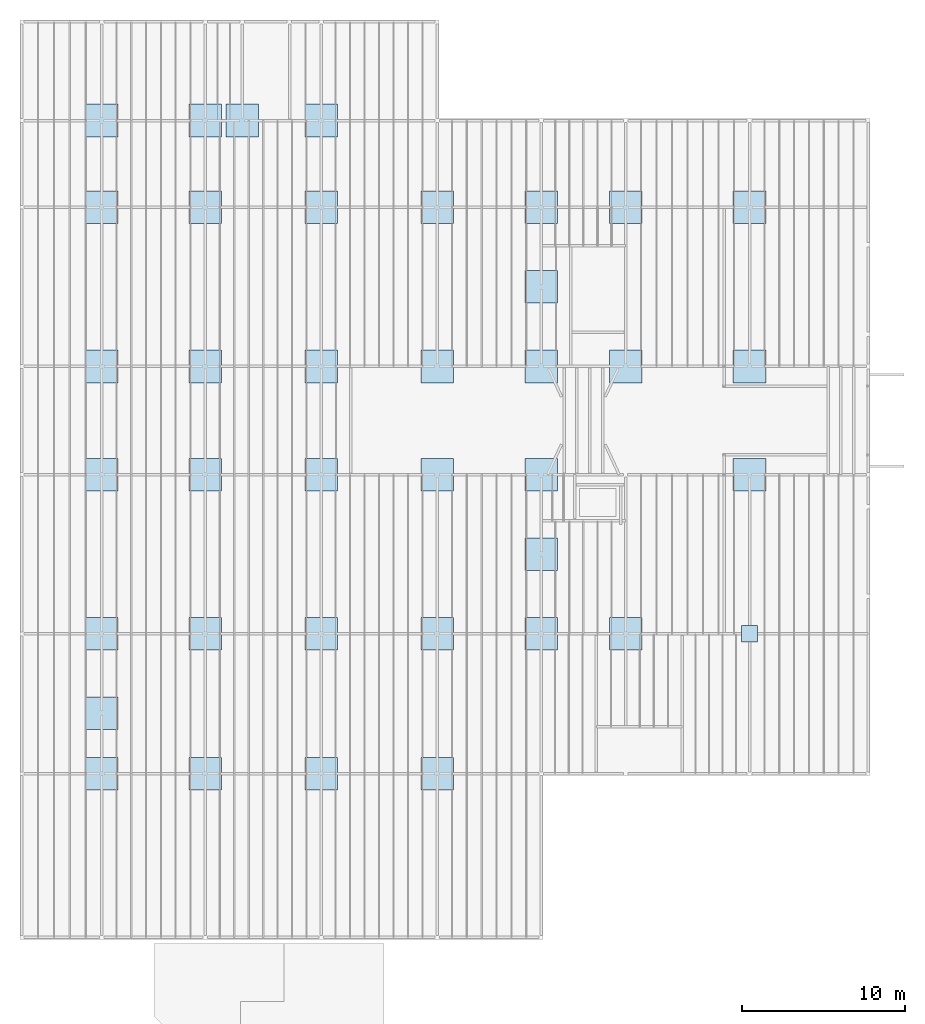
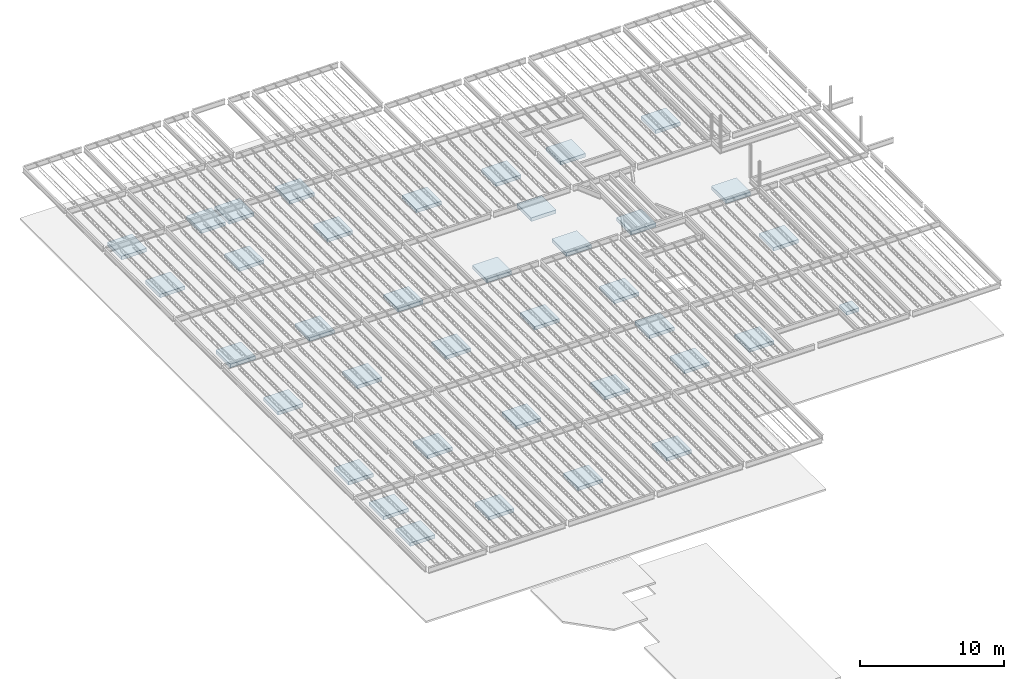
# One storey, part 1 of 75: 38 footings.
"""IFC2X3 building model written with IfcOpenShell, lengths in metres."""

from ifc_helpers import new_model, entity, si_unit, converted_unit, frame, origin, origin_2d_with_axis, place, context, project, spatial, rectangle, extrude, element, save


model = new_model("IFC2X3")

# Units and contexts
model_context = context("Model", 3, precision=1e-09, world=origin())
plan_context = context("Plan", 3, precision=1e-09, world=origin())
ifc_project = project(units=[si_unit("LENGTHUNIT", "METRE"), si_unit("AREAUNIT", "SQUARE_METRE"), si_unit("VOLUMEUNIT", "CUBIC_METRE"), converted_unit("PLANEANGLEUNIT", "DEGREE", entity("IfcRatioMeasure", 0.01745329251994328), si_unit("PLANEANGLEUNIT", "RADIAN"), dimensions=[0, 0, 0, 0, 0, 0, 0]), si_unit("TIMEUNIT", "SECOND")], contexts=[model_context, plan_context])

# Site, building, storey
site_placement = place(None, origin())
site = spatial("IfcSite", under=ifc_project, at=site_placement, Name="Default", CompositionType="ELEMENT")
building_placement = place(site_placement, origin())
building = spatial("IfcBuilding", under=site, at=building_placement, CompositionType="ELEMENT")
storey_placement = place(building_placement, origin())
storey = spatial("IfcBuildingStorey", under=building, at=storey_placement, Name="First Floor", CompositionType="ELEMENT", Elevation=-3.531500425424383e-13)

# Footings
footing_1_placement = place(storey_placement, origin())
element("IfcFooting", 1, at=footing_1_placement, inside=storey, Name="M_Footing-Rectangular:2000 x 2000 x 300mm:2000 x 2000 x 300mm", ObjectType="M_Footing-Rectangular:2000 x 2000 x 300mm", PredefinedType="NOTDEFINED", context=model_context, shape_type="SweptSolid", body=[
    extrude(rectangle(XDim=1.999999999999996, YDim=1.999999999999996, at=origin_2d_with_axis()), frame((-47.0, 44.78000000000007, -0.6049999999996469), z_axis=(0.0, 0.0, 1.0), x_axis=(-1.0, 0.0, 0.0)), (0.0, 0.0, 1.0), 0.2999999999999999),
])
footing_2_placement = place(storey_placement, origin())
element("IfcFooting", 2, at=footing_2_placement, inside=storey, Name="M_Footing-Rectangular:2000 x 2000 x 300mm:2000 x 2000 x 300mm", ObjectType="M_Footing-Rectangular:2000 x 2000 x 300mm", PredefinedType="NOTDEFINED", context=model_context, shape_type="SweptSolid", body=[
    extrude(rectangle(XDim=1.999999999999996, YDim=1.999999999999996, at=origin_2d_with_axis()), frame((-40.66000000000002, 44.78000000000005, -0.6049999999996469), z_axis=(0.0, 0.0, 1.0), x_axis=(-1.0, 0.0, 0.0)), (0.0, 0.0, 1.0), 0.2999999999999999),
])
footing_3_placement = place(storey_placement, origin())
element("IfcFooting", 3, at=footing_3_placement, inside=storey, Name="M_Footing-Rectangular:2000 x 2000 x 300mm:2000 x 2000 x 300mm", ObjectType="M_Footing-Rectangular:2000 x 2000 x 300mm", PredefinedType="NOTDEFINED", context=model_context, shape_type="SweptSolid", body=[
    extrude(rectangle(XDim=2.0, YDim=1.999999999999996, at=origin_2d_with_axis()), frame((-33.55, 44.78000000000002, -0.6049999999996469), z_axis=(0.0, 0.0, 1.0), x_axis=(-1.0, 0.0, 0.0)), (0.0, 0.0, 1.0), 0.2999999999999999),
])
footing_4_placement = place(storey_placement, origin())
element("IfcFooting", 4, at=footing_4_placement, inside=storey, Name="M_Footing-Rectangular:2000 x 2000 x 300mm:2000 x 2000 x 300mm", ObjectType="M_Footing-Rectangular:2000 x 2000 x 300mm", PredefinedType="NOTDEFINED", context=model_context, shape_type="SweptSolid", body=[
    extrude(rectangle(XDim=1.999999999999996, YDim=1.999999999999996, at=origin_2d_with_axis()), frame((-47.0, 50.09000000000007, -0.6049999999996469), z_axis=(0.0, 0.0, 1.0), x_axis=(-1.0, 0.0, 0.0)), (0.0, 0.0, 1.0), 0.2999999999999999),
])
footing_5_placement = place(storey_placement, origin())
element("IfcFooting", 5, at=footing_5_placement, inside=storey, Name="M_Footing-Rectangular:2000 x 2000 x 300mm:2000 x 2000 x 300mm", ObjectType="M_Footing-Rectangular:2000 x 2000 x 300mm", PredefinedType="NOTDEFINED", context=model_context, shape_type="SweptSolid", body=[
    extrude(rectangle(XDim=2.0, YDim=1.999999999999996, at=origin_2d_with_axis()), frame((-26.44000000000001, 44.78000000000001, -0.6049999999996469), z_axis=(0.0, 0.0, 1.0), x_axis=(-1.0, 0.0, 0.0)), (0.0, 0.0, 1.0), 0.2999999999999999),
])
footing_6_placement = place(storey_placement, origin())
element("IfcFooting", 6, at=footing_6_placement, inside=storey, Name="M_Footing-Rectangular:2000 x 2000 x 300mm:2000 x 2000 x 300mm", ObjectType="M_Footing-Rectangular:2000 x 2000 x 300mm", PredefinedType="NOTDEFINED", context=model_context, shape_type="SweptSolid", body=[
    extrude(rectangle(XDim=2.0, YDim=1.999999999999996, at=origin_2d_with_axis()), frame((-33.55, 50.09000000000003, -0.6049999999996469), z_axis=(0.0, 0.0, 1.0), x_axis=(-1.0, 0.0, 0.0)), (0.0, 0.0, 1.0), 0.2999999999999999),
])
footing_7_placement = place(storey_placement, origin())
element("IfcFooting", 7, at=footing_7_placement, inside=storey, Name="M_Footing-Rectangular:2000 x 2000 x 300mm:2000 x 2000 x 300mm", ObjectType="M_Footing-Rectangular:2000 x 2000 x 300mm", PredefinedType="NOTDEFINED", context=model_context, shape_type="SweptSolid", body=[
    extrude(rectangle(XDim=2.0, YDim=2.0, at=origin_2d_with_axis()), frame((-20.06000000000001, 23.49409120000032, -0.6049999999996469), z_axis=(0.0, 0.0, 1.0), x_axis=(-1.0, 0.0, 0.0)), (0.0, 0.0, 1.0), 0.2999999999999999),
])
footing_8_placement = place(storey_placement, origin())
element("IfcFooting", 8, at=footing_8_placement, inside=storey, Name="M_Footing-Rectangular:2000 x 2000 x 300mm:2000 x 2000 x 300mm", ObjectType="M_Footing-Rectangular:2000 x 2000 x 300mm", PredefinedType="NOTDEFINED", context=model_context, shape_type="SweptSolid", body=[
    extrude(rectangle(XDim=2.0, YDim=1.999999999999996, at=origin_2d_with_axis()), frame((-38.39000000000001, 50.09000000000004, -0.6049999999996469), z_axis=(0.0, 0.0, 1.0), x_axis=(-1.0, 0.0, 0.0)), (0.0, 0.0, 1.0), 0.2999999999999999),
])
footing_9_placement = place(storey_placement, origin())
element("IfcFooting", 9, at=footing_9_placement, inside=storey, Name="M_Footing-Rectangular:2000 x 2000 x 300mm:2000 x 2000 x 300mm", ObjectType="M_Footing-Rectangular:2000 x 2000 x 300mm", PredefinedType="NOTDEFINED", context=model_context, shape_type="SweptSolid", body=[
    extrude(rectangle(XDim=2.0, YDim=2.0, at=origin_2d_with_axis()), frame((-14.87997499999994, 35.00999999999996, -0.6049999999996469), z_axis=(0.0, 0.0, 1.0), x_axis=(-1.0, 0.0, 0.0)), (0.0, 0.0, 1.0), 0.2999999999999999),
])
footing_10_placement = place(storey_placement, origin())
element("IfcFooting", 10, at=footing_10_placement, inside=storey, Name="M_Footing-Rectangular:2000 x 2000 x 300mm:2000 x 2000 x 300mm", ObjectType="M_Footing-Rectangular:2000 x 2000 x 300mm", PredefinedType="NOTDEFINED", context=model_context, shape_type="SweptSolid", body=[
    extrude(rectangle(XDim=1.999999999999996, YDim=2.0, at=origin_2d_with_axis()), frame((-47.0, 13.73439520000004, -0.6049999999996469), z_axis=(0.0, 0.0, 1.0), x_axis=(-1.0, 0.0, 0.0)), (0.0, 0.0, 1.0), 0.2999999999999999),
])
footing_11_placement = place(storey_placement, origin())
element("IfcFooting", 11, at=footing_11_placement, inside=storey, Name="M_Footing-Rectangular:2000 x 2000 x 300mm:2000 x 2000 x 300mm", ObjectType="M_Footing-Rectangular:2000 x 2000 x 300mm", PredefinedType="NOTDEFINED", context=model_context, shape_type="SweptSolid", body=[
    extrude(rectangle(XDim=1.999999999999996, YDim=1.999999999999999, at=origin_2d_with_axis()), frame((-47.0, 10.04000000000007, -0.6049999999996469), z_axis=(0.0, 0.0, 1.0), x_axis=(-1.0, 0.0, 0.0)), (0.0, 0.0, 1.0), 0.2999999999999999),
])
footing_12_placement = place(storey_placement, origin())
element("IfcFooting", 12, at=footing_12_placement, inside=storey, Name="M_Footing-Rectangular:2000 x 2000 x 300mm:2000 x 2000 x 300mm", ObjectType="M_Footing-Rectangular:2000 x 2000 x 300mm", PredefinedType="NOTDEFINED", context=model_context, shape_type="SweptSolid", body=[
    extrude(rectangle(XDim=1.999999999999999, YDim=2.0, at=origin_2d_with_axis()), frame((-7.280000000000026, 35.00999999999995, -0.6049999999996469), z_axis=(0.0, 0.0, 1.0), x_axis=(-1.0, 0.0, 0.0)), (0.0, 0.0, 1.0), 0.2999999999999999),
])
footing_13_placement = place(storey_placement, origin())
element("IfcFooting", 13, at=footing_13_placement, inside=storey, Name="M_Footing-Rectangular:2000 x 2000 x 300mm:2000 x 2000 x 300mm", ObjectType="M_Footing-Rectangular:2000 x 2000 x 300mm", PredefinedType="NOTDEFINED", context=model_context, shape_type="SweptSolid", body=[
    extrude(rectangle(XDim=2.0, YDim=1.999999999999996, at=origin_2d_with_axis()), frame((-20.05999999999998, 44.77999999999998, -0.6049999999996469), z_axis=(0.0, 0.0, 1.0), x_axis=(-1.0, 0.0, 0.0)), (0.0, 0.0, 1.0), 0.2999999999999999),
])
footing_14_placement = place(storey_placement, origin())
element("IfcFooting", 14, at=footing_14_placement, inside=storey, Name="M_Footing-Rectangular:2000 x 2000 x 300mm:2000 x 2000 x 300mm", ObjectType="M_Footing-Rectangular:2000 x 2000 x 300mm", PredefinedType="NOTDEFINED", context=model_context, shape_type="SweptSolid", body=[
    extrude(rectangle(XDim=1.999999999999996, YDim=2.0, at=origin_2d_with_axis()), frame((-47.0, 35.01000000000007, -0.6049999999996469), z_axis=(0.0, 0.0, 1.0), x_axis=(-1.0, 0.0, 0.0)), (0.0, 0.0, 1.0), 0.2999999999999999),
])
footing_15_placement = place(storey_placement, origin())
element("IfcFooting", 15, at=footing_15_placement, inside=storey, Name="M_Footing-Rectangular:2000 x 2000 x 300mm:2000 x 2000 x 300mm", ObjectType="M_Footing-Rectangular:2000 x 2000 x 300mm", PredefinedType="NOTDEFINED", context=model_context, shape_type="SweptSolid", body=[
    extrude(rectangle(XDim=2.0, YDim=2.0, at=origin_2d_with_axis()), frame((-20.05999999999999, 39.89537920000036, -0.6049999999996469), z_axis=(0.0, 0.0, 1.0), x_axis=(-1.0, 0.0, 0.0)), (0.0, 0.0, 1.0), 0.2999999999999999),
])
footing_16_placement = place(storey_placement, origin())
element("IfcFooting", 16, at=footing_16_placement, inside=storey, Name="M_Footing-Rectangular:2000 x 2000 x 300mm:2000 x 2000 x 300mm", ObjectType="M_Footing-Rectangular:2000 x 2000 x 300mm", PredefinedType="NOTDEFINED", context=model_context, shape_type="SweptSolid", body=[
    extrude(rectangle(XDim=2.0, YDim=2.0, at=origin_2d_with_axis()), frame((-26.44000000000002, 35.01000000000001, -0.6049999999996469), z_axis=(0.0, 0.0, 1.0), x_axis=(-1.0, 0.0, 0.0)), (0.0, 0.0, 1.0), 0.2999999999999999),
])
footing_17_placement = place(storey_placement, origin())
element("IfcFooting", 17, at=footing_17_placement, inside=storey, Name="M_Footing-Rectangular:2000 x 2000 x 300mm:2000 x 2000 x 300mm", ObjectType="M_Footing-Rectangular:2000 x 2000 x 300mm", PredefinedType="NOTDEFINED", context=model_context, shape_type="SweptSolid", body=[
    extrude(rectangle(XDim=2.0, YDim=2.0, at=origin_2d_with_axis()), frame((-26.44000000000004, 28.38000000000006, -0.6049999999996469), z_axis=(0.0, 0.0, 1.0), x_axis=(-1.0, 0.0, 0.0)), (0.0, 0.0, 1.0), 0.2999999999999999),
])
footing_18_placement = place(storey_placement, origin())
element("IfcFooting", 18, at=footing_18_placement, inside=storey, Name="M_Footing-Rectangular:2000 x 2000 x 300mm:2000 x 2000 x 300mm", ObjectType="M_Footing-Rectangular:2000 x 2000 x 300mm", PredefinedType="NOTDEFINED", context=model_context, shape_type="SweptSolid", body=[
    extrude(rectangle(XDim=1.999999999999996, YDim=1.999999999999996, at=origin_2d_with_axis()), frame((-40.66000000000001, 50.09000000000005, -0.6049999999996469), z_axis=(0.0, 0.0, 1.0), x_axis=(-1.0, 0.0, 0.0)), (0.0, 0.0, 1.0), 0.2999999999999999),
])
footing_19_placement = place(storey_placement, origin())
element("IfcFooting", 19, at=footing_19_placement, inside=storey, Name="M_Footing-Rectangular:2000 x 2000 x 300mm:2000 x 2000 x 300mm", ObjectType="M_Footing-Rectangular:2000 x 2000 x 300mm", PredefinedType="NOTDEFINED", context=model_context, shape_type="SweptSolid", body=[
    extrude(rectangle(XDim=1.999999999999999, YDim=2.0, at=origin_2d_with_axis()), frame((-7.280000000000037, 28.38, -0.6049999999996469), z_axis=(0.0, 0.0, 1.0), x_axis=(-1.0, 0.0, 0.0)), (0.0, 0.0, 1.0), 0.2999999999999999),
])
footing_20_placement = place(storey_placement, origin())
element("IfcFooting", 20, at=footing_20_placement, inside=storey, Name="M_Footing-Rectangular:2000 x 2000 x 300mm:2000 x 2000 x 300mm", ObjectType="M_Footing-Rectangular:2000 x 2000 x 300mm", PredefinedType="NOTDEFINED", context=model_context, shape_type="SweptSolid", body=[
    extrude(rectangle(XDim=2.0, YDim=1.999999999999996, at=origin_2d_with_axis()), frame((-14.87997499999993, 44.77999999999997, -0.6049999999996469), z_axis=(0.0, 0.0, 1.0), x_axis=(-1.0, 0.0, 0.0)), (0.0, 0.0, 1.0), 0.2999999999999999),
])
footing_21_placement = place(storey_placement, origin())
element("IfcFooting", 21, at=footing_21_placement, inside=storey, Name="M_Footing-Rectangular:2000 x 2000 x 300mm:2000 x 2000 x 300mm", ObjectType="M_Footing-Rectangular:2000 x 2000 x 300mm", PredefinedType="NOTDEFINED", context=model_context, shape_type="SweptSolid", body=[
    extrude(rectangle(XDim=2.0, YDim=2.0, at=origin_2d_with_axis()), frame((-20.06000000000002, 18.61000000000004, -0.6049999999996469), z_axis=(0.0, 0.0, 1.0), x_axis=(-1.0, 0.0, 0.0)), (0.0, 0.0, 1.0), 0.2999999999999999),
])
footing_22_placement = place(storey_placement, origin())
element("IfcFooting", 22, at=footing_22_placement, inside=storey, Name="M_Footing-Rectangular:2000 x 2000 x 300mm:2000 x 2000 x 300mm", ObjectType="M_Footing-Rectangular:2000 x 2000 x 300mm", PredefinedType="NOTDEFINED", context=model_context, shape_type="SweptSolid", body=[
    extrude(rectangle(XDim=1.999999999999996, YDim=2.0, at=origin_2d_with_axis()), frame((-40.66000000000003, 35.01000000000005, -0.6049999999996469), z_axis=(0.0, 0.0, 1.0), x_axis=(-1.0, 0.0, 0.0)), (0.0, 0.0, 1.0), 0.2999999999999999),
])
footing_23_placement = place(storey_placement, origin())
element("IfcFooting", 23, at=footing_23_placement, inside=storey, Name="M_Footing-Rectangular:2000 x 2000 x 300mm:2000 x 2000 x 300mm", ObjectType="M_Footing-Rectangular:2000 x 2000 x 300mm", PredefinedType="NOTDEFINED", context=model_context, shape_type="SweptSolid", body=[
    extrude(rectangle(XDim=1.999999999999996, YDim=2.0, at=origin_2d_with_axis()), frame((-47.0, 18.61000000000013, -0.6049999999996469), z_axis=(0.0, 0.0, 1.0), x_axis=(-1.0, 0.0, 0.0)), (0.0, 0.0, 1.0), 0.2999999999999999),
])
footing_24_placement = place(storey_placement, origin())
element("IfcFooting", 24, at=footing_24_placement, inside=storey, Name="M_Footing-Rectangular:2000 x 2000 x 300mm:2000 x 2000 x 300mm", ObjectType="M_Footing-Rectangular:2000 x 2000 x 300mm", PredefinedType="NOTDEFINED", context=model_context, shape_type="SweptSolid", body=[
    extrude(rectangle(XDim=2.0, YDim=2.0, at=origin_2d_with_axis()), frame((-14.87997499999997, 18.61000000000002, -0.6049999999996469), z_axis=(0.0, 0.0, 1.0), x_axis=(-1.0, 0.0, 0.0)), (0.0, 0.0, 1.0), 0.2999999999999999),
])
footing_25_placement = place(storey_placement, origin())
element("IfcFooting", 25, at=footing_25_placement, inside=storey, Name="M_Footing-Rectangular:2000 x 2000 x 300mm:2000 x 2000 x 300mm", ObjectType="M_Footing-Rectangular:2000 x 2000 x 300mm", PredefinedType="NOTDEFINED", context=model_context, shape_type="SweptSolid", body=[
    extrude(rectangle(XDim=1.999999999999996, YDim=1.999999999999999, at=origin_2d_with_axis()), frame((-40.66000000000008, 10.04000000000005, -0.6049999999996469), z_axis=(0.0, 0.0, 1.0), x_axis=(-1.0, 0.0, 0.0)), (0.0, 0.0, 1.0), 0.2999999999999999),
])
footing_26_placement = place(storey_placement, origin())
element("IfcFooting", 26, at=footing_26_placement, inside=storey, Name="M_Footing-Rectangular:2000 x 2000 x 300mm:2000 x 2000 x 300mm", ObjectType="M_Footing-Rectangular:2000 x 2000 x 300mm", PredefinedType="NOTDEFINED", context=model_context, shape_type="SweptSolid", body=[
    extrude(rectangle(XDim=2.0, YDim=1.999999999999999, at=origin_2d_with_axis()), frame((-26.44000000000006, 10.04, -0.6049999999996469), z_axis=(0.0, 0.0, 1.0), x_axis=(-1.0, 0.0, 0.0)), (0.0, 0.0, 1.0), 0.2999999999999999),
])
footing_27_placement = place(storey_placement, origin())
element("IfcFooting", 27, at=footing_27_placement, inside=storey, Name="M_Footing-Rectangular:2000 x 2000 x 300mm:2000 x 2000 x 300mm", ObjectType="M_Footing-Rectangular:2000 x 2000 x 300mm", PredefinedType="NOTDEFINED", context=model_context, shape_type="SweptSolid", body=[
    extrude(rectangle(XDim=2.0, YDim=2.0, at=origin_2d_with_axis()), frame((-26.44000000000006, 18.61000000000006, -0.6049999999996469), z_axis=(0.0, 0.0, 1.0), x_axis=(-1.0, 0.0, 0.0)), (0.0, 0.0, 1.0), 0.2999999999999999),
])
footing_28_placement = place(storey_placement, origin())
element("IfcFooting", 28, at=footing_28_placement, inside=storey, Name="M_Footing-Rectangular:1000 x 1000 x 300mm:1000 x 1000 x 300mm", ObjectType="M_Footing-Rectangular:1000 x 1000 x 300mm", PredefinedType="NOTDEFINED", context=model_context, shape_type="SweptSolid", body=[
    extrude(rectangle(XDim=1.0, YDim=1.0, at=origin_2d_with_axis()), frame((-7.280000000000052, 18.61, -0.6049999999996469), z_axis=(0.0, 0.0, 1.0), x_axis=(-1.0, 0.0, 0.0)), (0.0, 0.0, 1.0), 0.2999999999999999),
])
footing_29_placement = place(storey_placement, origin())
element("IfcFooting", 29, at=footing_29_placement, inside=storey, Name="M_Footing-Rectangular:2000 x 2000 x 300mm:2000 x 2000 x 300mm", ObjectType="M_Footing-Rectangular:2000 x 2000 x 300mm", PredefinedType="NOTDEFINED", context=model_context, shape_type="SweptSolid", body=[
    extrude(rectangle(XDim=2.0, YDim=2.0, at=origin_2d_with_axis()), frame((-33.55000000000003, 35.01000000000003, -0.6049999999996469), z_axis=(0.0, 0.0, 1.0), x_axis=(-1.0, 0.0, 0.0)), (0.0, 0.0, 1.0), 0.2999999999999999),
])
footing_30_placement = place(storey_placement, origin())
element("IfcFooting", 30, at=footing_30_placement, inside=storey, Name="M_Footing-Rectangular:2000 x 2000 x 300mm:2000 x 2000 x 300mm", ObjectType="M_Footing-Rectangular:2000 x 2000 x 300mm", PredefinedType="NOTDEFINED", context=model_context, shape_type="SweptSolid", body=[
    extrude(rectangle(XDim=2.0, YDim=2.0, at=origin_2d_with_axis()), frame((-20.06000000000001, 28.38000000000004, -0.6049999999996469), z_axis=(0.0, 0.0, 1.0), x_axis=(-1.0, 0.0, 0.0)), (0.0, 0.0, 1.0), 0.2999999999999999),
])
footing_31_placement = place(storey_placement, origin())
element("IfcFooting", 31, at=footing_31_placement, inside=storey, Name="M_Footing-Rectangular:2000 x 2000 x 300mm:2000 x 2000 x 300mm", ObjectType="M_Footing-Rectangular:2000 x 2000 x 300mm", PredefinedType="NOTDEFINED", context=model_context, shape_type="SweptSolid", body=[
    extrude(rectangle(XDim=2.0, YDim=1.999999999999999, at=origin_2d_with_axis()), frame((-33.55000000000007, 10.04000000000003, -0.6049999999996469), z_axis=(0.0, 0.0, 1.0), x_axis=(-1.0, 0.0, 0.0)), (0.0, 0.0, 1.0), 0.2999999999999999),
])
footing_32_placement = place(storey_placement, origin())
element("IfcFooting", 32, at=footing_32_placement, inside=storey, Name="M_Footing-Rectangular:2000 x 2000 x 300mm:2000 x 2000 x 300mm", ObjectType="M_Footing-Rectangular:2000 x 2000 x 300mm", PredefinedType="NOTDEFINED", context=model_context, shape_type="SweptSolid", body=[
    extrude(rectangle(XDim=1.999999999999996, YDim=2.0, at=origin_2d_with_axis()), frame((-47.0, 28.38000000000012, -0.6049999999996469), z_axis=(0.0, 0.0, 1.0), x_axis=(-1.0, 0.0, 0.0)), (0.0, 0.0, 1.0), 0.2999999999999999),
])
footing_33_placement = place(storey_placement, origin())
element("IfcFooting", 33, at=footing_33_placement, inside=storey, Name="M_Footing-Rectangular:2000 x 2000 x 300mm:2000 x 2000 x 300mm", ObjectType="M_Footing-Rectangular:2000 x 2000 x 300mm", PredefinedType="NOTDEFINED", context=model_context, shape_type="SweptSolid", body=[
    extrude(rectangle(XDim=1.999999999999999, YDim=1.999999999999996, at=origin_2d_with_axis()), frame((-7.280000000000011, 44.77999999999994, -0.6049999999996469), z_axis=(0.0, 0.0, 1.0), x_axis=(-1.0, 0.0, 0.0)), (0.0, 0.0, 1.0), 0.2999999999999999),
])
footing_34_placement = place(storey_placement, origin())
element("IfcFooting", 34, at=footing_34_placement, inside=storey, Name="M_Footing-Rectangular:2000 x 2000 x 300mm:2000 x 2000 x 300mm", ObjectType="M_Footing-Rectangular:2000 x 2000 x 300mm", PredefinedType="NOTDEFINED", context=model_context, shape_type="SweptSolid", body=[
    extrude(rectangle(XDim=1.999999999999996, YDim=2.0, at=origin_2d_with_axis()), frame((-40.66000000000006, 18.61000000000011, -0.6049999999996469), z_axis=(0.0, 0.0, 1.0), x_axis=(-1.0, 0.0, 0.0)), (0.0, 0.0, 1.0), 0.2999999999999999),
])
footing_35_placement = place(storey_placement, origin())
element("IfcFooting", 35, at=footing_35_placement, inside=storey, Name="M_Footing-Rectangular:2000 x 2000 x 300mm:2000 x 2000 x 300mm", ObjectType="M_Footing-Rectangular:2000 x 2000 x 300mm", PredefinedType="NOTDEFINED", context=model_context, shape_type="SweptSolid", body=[
    extrude(rectangle(XDim=2.0, YDim=2.0, at=origin_2d_with_axis()), frame((-20.06, 35.00999999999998, -0.6049999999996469), z_axis=(0.0, 0.0, 1.0), x_axis=(-1.0, 0.0, 0.0)), (0.0, 0.0, 1.0), 0.2999999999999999),
])
footing_36_placement = place(storey_placement, origin())
element("IfcFooting", 36, at=footing_36_placement, inside=storey, Name="M_Footing-Rectangular:2000 x 2000 x 300mm:2000 x 2000 x 300mm", ObjectType="M_Footing-Rectangular:2000 x 2000 x 300mm", PredefinedType="NOTDEFINED", context=model_context, shape_type="SweptSolid", body=[
    extrude(rectangle(XDim=2.0, YDim=2.0, at=origin_2d_with_axis()), frame((-33.55000000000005, 18.61000000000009, -0.6049999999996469), z_axis=(0.0, 0.0, 1.0), x_axis=(-1.0, 0.0, 0.0)), (0.0, 0.0, 1.0), 0.2999999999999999),
])
footing_37_placement = place(storey_placement, origin())
element("IfcFooting", 37, at=footing_37_placement, inside=storey, Name="M_Footing-Rectangular:2000 x 2000 x 300mm:2000 x 2000 x 300mm", ObjectType="M_Footing-Rectangular:2000 x 2000 x 300mm", PredefinedType="NOTDEFINED", context=model_context, shape_type="SweptSolid", body=[
    extrude(rectangle(XDim=2.0, YDim=2.0, at=origin_2d_with_axis()), frame((-33.55000000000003, 28.38000000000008, -0.6049999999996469), z_axis=(0.0, 0.0, 1.0), x_axis=(-1.0, 0.0, 0.0)), (0.0, 0.0, 1.0), 0.2999999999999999),
])
footing_38_placement = place(storey_placement, origin())
element("IfcFooting", 38, at=footing_38_placement, inside=storey, Name="M_Footing-Rectangular:2000 x 2000 x 300mm:2000 x 2000 x 300mm", ObjectType="M_Footing-Rectangular:2000 x 2000 x 300mm", PredefinedType="NOTDEFINED", context=model_context, shape_type="SweptSolid", body=[
    extrude(rectangle(XDim=1.999999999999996, YDim=2.0, at=origin_2d_with_axis()), frame((-40.66000000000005, 28.3800000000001, -0.6049999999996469), z_axis=(0.0, 0.0, 1.0), x_axis=(-1.0, 0.0, 0.0)), (0.0, 0.0, 1.0), 0.2999999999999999),
])

save(model, "model.ifc")
